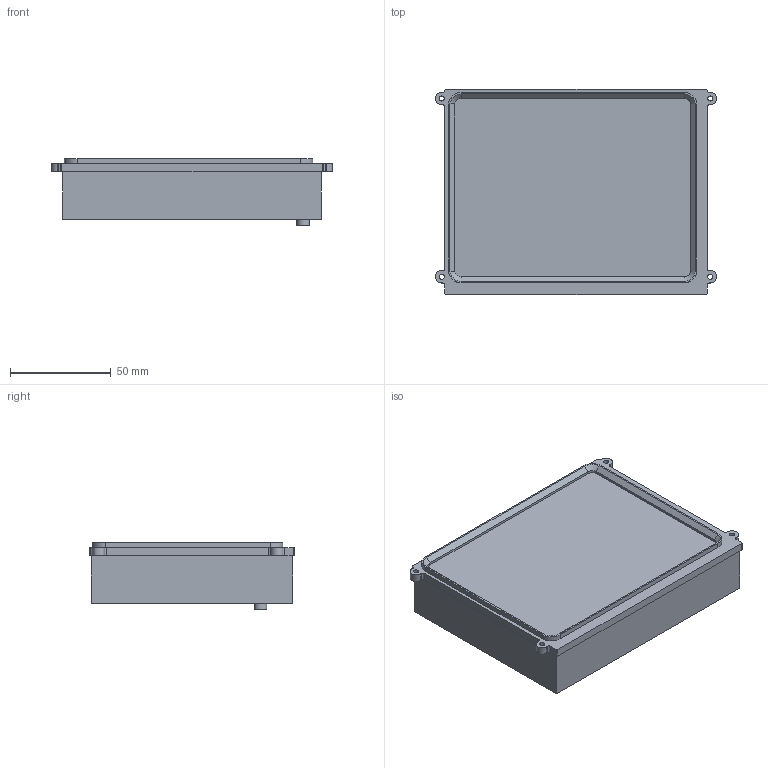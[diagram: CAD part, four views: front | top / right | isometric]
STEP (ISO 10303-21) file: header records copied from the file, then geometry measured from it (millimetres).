
FILE_DESCRIPTION(/* description */ (''),/* implementation_level */ '2;1');
FILE_NAME(/* name */ 'xctn5.7 v2 dummy.stp',/* time_stamp */ '2026-01-08T12:50:45+01:00',/* author */ ('frits_000'),/* organization */ (''),/* preprocessor_version */ 'ST-DEVELOPER v20.1',/* originating_system */ 'Autodesk Inventor 2026',/* authorisation */ '');
FILE_SCHEMA (('AUTOMOTIVE_DESIGN { 1 0 10303 214 3 1 1 }'));
Length unit declared in the file: millimetre
Products named in the file (1): xctn5.7 v2 dummy
Bounding box: 139.4 x 101.7 x 33 mm (x, y, z)
Volume: 343594.6 mm3; surface area: 42623.6 mm2
Topology: 1 solids, 1 shells, 176 faces, 394 edges, 260 vertices
Faces by surface type: plane 92, cylinder 80, cone 4
Full cylindrical faces by diameter (mm): 2 x23, 2.1 x1, 2.5 x4, 2.7 x4, 3.5 x1, 5 x1, 6.3 x1, 6.5 x1
Entity records: 5075 total; most frequent: DIRECTION 908, CARTESIAN_POINT 843, ORIENTED_EDGE 788, EDGE_CURVE 394, AXIS2_PLACEMENT_3D 341, VERTEX_POINT 260, LINE 226, VECTOR 226
